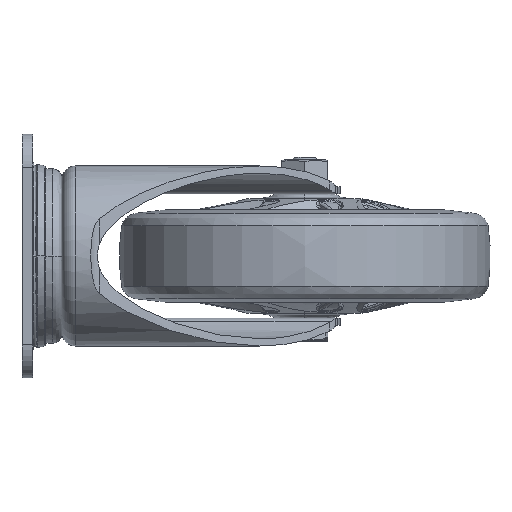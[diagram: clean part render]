
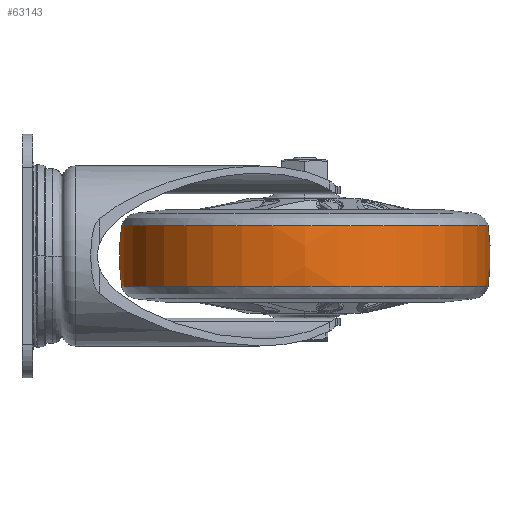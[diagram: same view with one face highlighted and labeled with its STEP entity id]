
A CAD part, left-side view. The second image highlights one B-rep face of the part: STEP entity #63143.
In plain terms, the highlighted free-form (B-spline) face has degree [3, 3] with [7, 4] control points.
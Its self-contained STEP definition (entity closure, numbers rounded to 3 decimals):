
#3264 = CARTESIAN_POINT ( 'NONE',  ( -76.535, 4.315, -53.401 ) ) ;
#4155 = CARTESIAN_POINT ( 'NONE',  ( -41.466, 12.873, -178.459 ) ) ;
#5681 =( BOUNDED_SURFACE ( )  B_SPLINE_SURFACE ( 3, 3, ( 
 ( #59462, #86832, #87282, #88176 ),
 ( #38432, #45318, #73582, #4155 ),
 ( #86388, #10993, #38877, #58572 ),
 ( #73138, #87727, #66317, #53067 ),
 ( #37984, #53516, #3264, #32035 ),
 ( #10100, #31591, #81322, #10557 ),
 ( #59915, #37533, #65418, #60364 ) ),
 .UNSPECIFIED., .F., .F., .F. ) 
 B_SPLINE_SURFACE_WITH_KNOTS ( ( 4, 3, 4 ),
 ( 4, 4 ),
 ( 0., 1., 2. ),
 ( 0., 1. ),
 .UNSPECIFIED. ) 
 GEOMETRIC_REPRESENTATION_ITEM ( )  RATIONAL_B_SPLINE_SURFACE ( (
 ( 1.192, 1.186, 1.186, 1.192),
 ( 0.941, 0.936, 0.936, 0.941),
 ( 0.941, 0.936, 0.936, 0.941),
 ( 1.192, 1.186, 1.186, 1.192),
 ( 0.941, 0.936, 0.936, 0.941),
 ( 0.941, 0.936, 0.936, 0.941),
 ( 1.192, 1.186, 1.186, 1.192) ) ) 
 REPRESENTATION_ITEM ( '' )  SURFACE ( )  );
#6593 = CARTESIAN_POINT ( 'NONE',  ( 0., -4.148, -23.991 ) ) ;
#7454 = VERTEX_POINT ( 'NONE', #77484 ) ;
#7556 = CARTESIAN_POINT ( 'NONE',  ( 0., 4.148, -177.009 ) ) ;
#8297 = DIRECTION ( 'NONE',  ( 0., 0., -1. ) ) ;
#8967 = VERTEX_POINT ( 'NONE', #24173 ) ;
#10100 = CARTESIAN_POINT ( 'NONE',  ( -41.466, -12.873, -22.541 ) ) ;
#10539 = ORIENTED_EDGE ( 'NONE', *, *, #62074, .F. ) ;
#10557 = CARTESIAN_POINT ( 'NONE',  ( -41.466, 12.873, -22.541 ) ) ;
#10993 = CARTESIAN_POINT ( 'NONE',  ( -76.535, -4.315, -147.599 ) ) ;
#13887 = CARTESIAN_POINT ( 'NONE',  ( 0., 4.148, -23.991 ) ) ;
#18079 = EDGE_CURVE ( 'NONE', #7454, #18878, #78703, .T. ) ;
#18878 = VERTEX_POINT ( 'NONE', #29068 ) ;
#23721 =( BOUNDED_CURVE ( )  B_SPLINE_CURVE ( 3, ( #89724, #6593, #13887, #41803 ),
 .UNSPECIFIED., .F., .F. ) 
 B_SPLINE_CURVE_WITH_KNOTS ( ( 4, 4 ),
 ( 0., 1. ),
 .UNSPECIFIED. ) 
 CURVE ( )  GEOMETRIC_REPRESENTATION_ITEM ( )  RATIONAL_B_SPLINE_CURVE ( ( 1., 0.995, 0.995, 1. ) ) 
 REPRESENTATION_ITEM ( '' )  );
#24173 = CARTESIAN_POINT ( 'NONE',  ( 0., 12.38, -25.223 ) ) ;
#24727 = FACE_OUTER_BOUND ( 'NONE', #68884, .T. ) ;
#27428 = AXIS2_PLACEMENT_3D ( 'NONE', #30654, #37499, #28842 ) ;
#28842 = DIRECTION ( 'NONE',  ( 0., 0., -1. ) ) ;
#28872 = CIRCLE ( 'NONE', #27428, 75.277 ) ;
#29068 = CARTESIAN_POINT ( 'NONE',  ( 0., -12.38, -175.777 ) ) ;
#30654 = CARTESIAN_POINT ( 'NONE',  ( 0., -12.38, -100.5 ) ) ;
#31591 = CARTESIAN_POINT ( 'NONE',  ( -42.201, -4.315, -21.159 ) ) ;
#32035 = CARTESIAN_POINT ( 'NONE',  ( -75.202, 12.873, -54.221 ) ) ;
#37499 = DIRECTION ( 'NONE',  ( 0., -1., 0. ) ) ;
#37533 = CARTESIAN_POINT ( 'NONE',  ( 4.806, -4.315, -24.116 ) ) ;
#37984 = CARTESIAN_POINT ( 'NONE',  ( -75.202, -12.873, -54.221 ) ) ;
#38432 = CARTESIAN_POINT ( 'NONE',  ( -41.466, -12.873, -178.459 ) ) ;
#38877 = CARTESIAN_POINT ( 'NONE',  ( -76.535, 4.315, -147.599 ) ) ;
#41803 = CARTESIAN_POINT ( 'NONE',  ( 0., 12.38, -25.223 ) ) ;
#44115 = CARTESIAN_POINT ( 'NONE',  ( 0., -12.38, -175.777 ) ) ;
#45318 = CARTESIAN_POINT ( 'NONE',  ( -42.201, -4.315, -179.841 ) ) ;
#47721 = EDGE_CURVE ( 'NONE', #55989, #8967, #23721, .T. ) ;
#48962 = ORIENTED_EDGE ( 'NONE', *, *, #53358, .T. ) ;
#50628 = CIRCLE ( 'NONE', #82652, 75.277 ) ;
#53067 = CARTESIAN_POINT ( 'NONE',  ( -75.202, 12.873, -100.5 ) ) ;
#53358 = EDGE_CURVE ( 'NONE', #8967, #7454, #50628, .T. ) ;
#53516 = CARTESIAN_POINT ( 'NONE',  ( -76.535, -4.315, -53.401 ) ) ;
#55989 = VERTEX_POINT ( 'NONE', #83682 ) ;
#58572 = CARTESIAN_POINT ( 'NONE',  ( -75.202, 12.873, -146.779 ) ) ;
#59462 = CARTESIAN_POINT ( 'NONE',  ( 4.722, -12.873, -175.553 ) ) ;
#59915 = CARTESIAN_POINT ( 'NONE',  ( 4.722, -12.873, -25.447 ) ) ;
#60364 = CARTESIAN_POINT ( 'NONE',  ( 4.722, 12.873, -25.447 ) ) ;
#62074 = EDGE_CURVE ( 'NONE', #55989, #18878, #28872, .T. ) ;
#63143 = ADVANCED_FACE ( 'NONE', ( #24727 ), #5681, .T. ) ;
#63682 = ORIENTED_EDGE ( 'NONE', *, *, #47721, .T. ) ;
#65418 = CARTESIAN_POINT ( 'NONE',  ( 4.806, 4.315, -24.116 ) ) ;
#66317 = CARTESIAN_POINT ( 'NONE',  ( -76.535, 4.315, -100.5 ) ) ;
#68884 = EDGE_LOOP ( 'NONE', ( #48962, #79427, #10539, #63682 ) ) ;
#70144 = CARTESIAN_POINT ( 'NONE',  ( 0., 12.38, -175.777 ) ) ;
#70888 = CARTESIAN_POINT ( 'NONE',  ( 0., 12.38, -100.5 ) ) ;
#73138 = CARTESIAN_POINT ( 'NONE',  ( -75.202, -12.873, -100.5 ) ) ;
#73582 = CARTESIAN_POINT ( 'NONE',  ( -42.201, 4.315, -179.841 ) ) ;
#77484 = CARTESIAN_POINT ( 'NONE',  ( 0., 12.38, -175.777 ) ) ;
#78176 = DIRECTION ( 'NONE',  ( 0., -1., 0. ) ) ;
#78703 =( BOUNDED_CURVE ( )  B_SPLINE_CURVE ( 3, ( #70144, #7556, #85631, #44115 ),
 .UNSPECIFIED., .F., .F. ) 
 B_SPLINE_CURVE_WITH_KNOTS ( ( 4, 4 ),
 ( 0., 1. ),
 .UNSPECIFIED. ) 
 CURVE ( )  GEOMETRIC_REPRESENTATION_ITEM ( )  RATIONAL_B_SPLINE_CURVE ( ( 1., 0.995, 0.995, 1. ) ) 
 REPRESENTATION_ITEM ( '' )  );
#79427 = ORIENTED_EDGE ( 'NONE', *, *, #18079, .T. ) ;
#81322 = CARTESIAN_POINT ( 'NONE',  ( -42.201, 4.315, -21.159 ) ) ;
#82652 = AXIS2_PLACEMENT_3D ( 'NONE', #70888, #78176, #8297 ) ;
#83682 = CARTESIAN_POINT ( 'NONE',  ( 0., -12.38, -25.223 ) ) ;
#85631 = CARTESIAN_POINT ( 'NONE',  ( 0., -4.148, -177.009 ) ) ;
#86388 = CARTESIAN_POINT ( 'NONE',  ( -75.202, -12.873, -146.779 ) ) ;
#86832 = CARTESIAN_POINT ( 'NONE',  ( 4.806, -4.315, -176.884 ) ) ;
#87282 = CARTESIAN_POINT ( 'NONE',  ( 4.806, 4.315, -176.884 ) ) ;
#87727 = CARTESIAN_POINT ( 'NONE',  ( -76.535, -4.315, -100.5 ) ) ;
#88176 = CARTESIAN_POINT ( 'NONE',  ( 4.722, 12.873, -175.553 ) ) ;
#89724 = CARTESIAN_POINT ( 'NONE',  ( 0., -12.38, -25.223 ) ) ;
